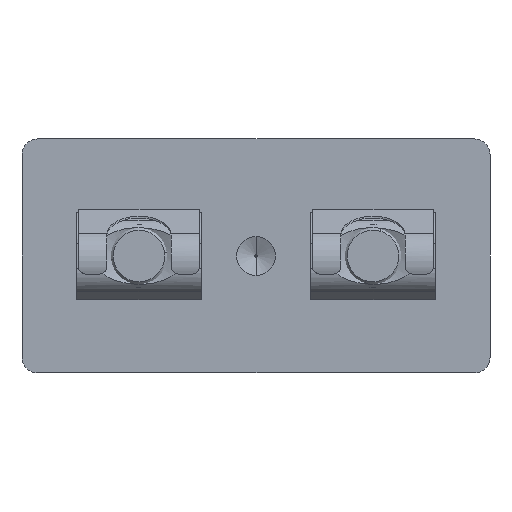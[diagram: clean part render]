
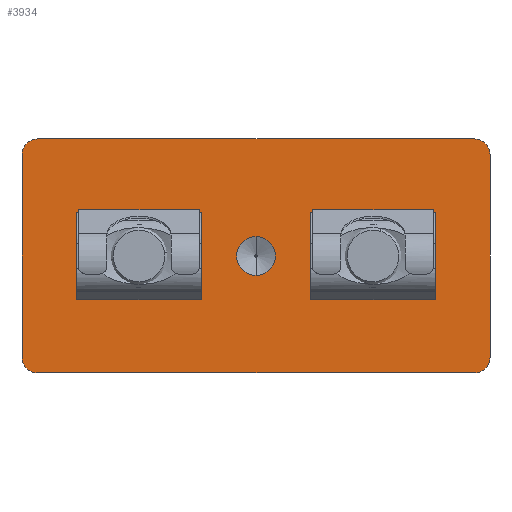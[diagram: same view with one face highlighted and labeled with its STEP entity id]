
A CAD part, front view. The second image highlights one B-rep face of the part: STEP entity #3934.
In plain terms, the highlighted planar face has unit normal (0, -1, 0).
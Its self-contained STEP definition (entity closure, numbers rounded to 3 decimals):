
#9 = CARTESIAN_POINT ( 'NONE',  ( -3.44, -3.897, 1.8 ) ) ;
#78 = AXIS2_PLACEMENT_3D ( 'NONE', #2356, #2885, #4289 ) ;
#205 = CARTESIAN_POINT ( 'NONE',  ( 26.56, -3.897, -13.7 ) ) ;
#255 = FACE_BOUND ( 'NONE', #4356, .T. ) ;
#289 = VERTEX_POINT ( 'NONE', #5952 ) ;
#293 = LINE ( 'NONE', #373, #3072 ) ;
#373 = CARTESIAN_POINT ( 'NONE',  ( 26.56, -3.897, -15.7 ) ) ;
#441 = CIRCLE ( 'NONE', #2847, 2. ) ;
#712 = EDGE_CURVE ( 'NONE', #3746, #1873, #441, .T. ) ;
#982 = VERTEX_POINT ( 'NONE', #6184 ) ;
#1050 = ORIENTED_EDGE ( 'NONE', *, *, #4214, .F. ) ;
#1072 = VECTOR ( 'NONE', #7654, 1000. ) ;
#1092 = DIRECTION ( 'NONE',  ( 0., -1., 0. ) ) ;
#1148 = EDGE_CURVE ( 'NONE', #5632, #8066, #2854, .T. ) ;
#1275 = DIRECTION ( 'NONE',  ( 0., 0., 1. ) ) ;
#1346 = CARTESIAN_POINT ( 'NONE',  ( -3.44, -3.897, -0.7 ) ) ;
#1487 = FACE_BOUND ( 'NONE', #5428, .T. ) ;
#1752 = CARTESIAN_POINT ( 'NONE',  ( -31.44, -3.897, 14.3 ) ) ;
#1873 = VERTEX_POINT ( 'NONE', #205 ) ;
#2006 = CIRCLE ( 'NONE', #6319, 2.5 ) ;
#2045 = EDGE_CURVE ( 'NONE', #3746, #3938, #293, .T. ) ;
#2071 = ORIENTED_EDGE ( 'NONE', *, *, #1148, .T. ) ;
#2168 = DIRECTION ( 'NONE',  ( 0., -1., 0. ) ) ;
#2194 = ORIENTED_EDGE ( 'NONE', *, *, #4968, .T. ) ;
#2247 = ORIENTED_EDGE ( 'NONE', *, *, #5903, .F. ) ;
#2356 = CARTESIAN_POINT ( 'NONE',  ( -3.44, -3.897, -0.7 ) ) ;
#2417 = EDGE_CURVE ( 'NONE', #982, #3938, #8469, .T. ) ;
#2422 = CARTESIAN_POINT ( 'NONE',  ( -3.44, -3.897, -0.7 ) ) ;
#2459 = ORIENTED_EDGE ( 'NONE', *, *, #2417, .T. ) ;
#2472 = CARTESIAN_POINT ( 'NONE',  ( 11.56, -3.897, 3.8 ) ) ;
#2491 = DIRECTION ( 'NONE',  ( -1., 0., 0. ) ) ;
#2523 = EDGE_CURVE ( 'NONE', #289, #7287, #4121, .T. ) ;
#2572 = CARTESIAN_POINT ( 'NONE',  ( -18.44, -3.897, 3.8 ) ) ;
#2606 = VECTOR ( 'NONE', #3172, 1000. ) ;
#2669 = DIRECTION ( 'NONE',  ( 0., 0., 1. ) ) ;
#2697 = CARTESIAN_POINT ( 'NONE',  ( 24.56, -3.897, 12.3 ) ) ;
#2739 = VERTEX_POINT ( 'NONE', #5440 ) ;
#2782 = DIRECTION ( 'NONE',  ( 0., 0., -1. ) ) ;
#2786 = AXIS2_PLACEMENT_3D ( 'NONE', #8397, #5663, #2669 ) ;
#2830 = CARTESIAN_POINT ( 'NONE',  ( -18.44, -3.897, -0.7 ) ) ;
#2847 = AXIS2_PLACEMENT_3D ( 'NONE', #6368, #4970, #4090 ) ;
#2854 = CIRCLE ( 'NONE', #7487, 4.5 ) ;
#2885 = DIRECTION ( 'NONE',  ( 0., -1., 0. ) ) ;
#2979 = CIRCLE ( 'NONE', #6406, 2. ) ;
#3007 = CARTESIAN_POINT ( 'NONE',  ( 11.56, -3.897, -0.7 ) ) ;
#3021 = PLANE ( 'NONE',  #4192 ) ;
#3072 = VECTOR ( 'NONE', #2491, 1000. ) ;
#3172 = DIRECTION ( 'NONE',  ( 1., 0., 0. ) ) ;
#3211 = EDGE_CURVE ( 'NONE', #8066, #5632, #6711, .T. ) ;
#3418 = EDGE_CURVE ( 'NONE', #5972, #3450, #2979, .T. ) ;
#3429 = CARTESIAN_POINT ( 'NONE',  ( -33.44, -3.897, -15.7 ) ) ;
#3450 = VERTEX_POINT ( 'NONE', #5659 ) ;
#3587 = DIRECTION ( 'NONE',  ( 0., 0., -1. ) ) ;
#3718 = FACE_BOUND ( 'NONE', #8476, .T. ) ;
#3746 = VERTEX_POINT ( 'NONE', #6866 ) ;
#3822 = ORIENTED_EDGE ( 'NONE', *, *, #3211, .T. ) ;
#3934 = ADVANCED_FACE ( 'NONE', ( #255, #3718, #1487, #5123 ), #3021, .F. ) ;
#3938 = VERTEX_POINT ( 'NONE', #6618 ) ;
#3967 = CARTESIAN_POINT ( 'NONE',  ( -33.44, -3.897, 14.3 ) ) ;
#3973 = CIRCLE ( 'NONE', #5163, 2. ) ;
#4082 = ORIENTED_EDGE ( 'NONE', *, *, #2523, .T. ) ;
#4090 = DIRECTION ( 'NONE',  ( 0., 0., 1. ) ) ;
#4119 = EDGE_CURVE ( 'NONE', #7287, #289, #5092, .T. ) ;
#4121 = CIRCLE ( 'NONE', #8924, 4.5 ) ;
#4176 = CARTESIAN_POINT ( 'NONE',  ( 11.56, -3.897, -0.7 ) ) ;
#4179 = DIRECTION ( 'NONE',  ( 0., 0., 1. ) ) ;
#4192 = AXIS2_PLACEMENT_3D ( 'NONE', #2422, #7996, #8849 ) ;
#4198 = DIRECTION ( 'NONE',  ( 0., -1., 0. ) ) ;
#4214 = EDGE_CURVE ( 'NONE', #982, #3450, #4229, .T. ) ;
#4229 = LINE ( 'NONE', #3429, #1072 ) ;
#4289 = DIRECTION ( 'NONE',  ( 0., 0., -1. ) ) ;
#4292 = EDGE_CURVE ( 'NONE', #2739, #1873, #7747, .T. ) ;
#4356 = EDGE_LOOP ( 'NONE', ( #2071, #3822 ) ) ;
#4524 = CARTESIAN_POINT ( 'NONE',  ( 24.56, -3.897, 14.3 ) ) ;
#4758 = ORIENTED_EDGE ( 'NONE', *, *, #2045, .F. ) ;
#4939 = ORIENTED_EDGE ( 'NONE', *, *, #5670, .F. ) ;
#4968 = EDGE_CURVE ( 'NONE', #2739, #7054, #3973, .T. ) ;
#4970 = DIRECTION ( 'NONE',  ( 0., -1., 0. ) ) ;
#5092 = CIRCLE ( 'NONE', #8409, 4.5 ) ;
#5123 = FACE_OUTER_BOUND ( 'NONE', #7522, .T. ) ;
#5163 = AXIS2_PLACEMENT_3D ( 'NONE', #2697, #2168, #1275 ) ;
#5268 = DIRECTION ( 'NONE',  ( 0., 0., 1. ) ) ;
#5428 = EDGE_LOOP ( 'NONE', ( #9043, #2247 ) ) ;
#5440 = CARTESIAN_POINT ( 'NONE',  ( 26.56, -3.897, 12.3 ) ) ;
#5588 = ORIENTED_EDGE ( 'NONE', *, *, #3418, .T. ) ;
#5632 = VERTEX_POINT ( 'NONE', #2472 ) ;
#5659 = CARTESIAN_POINT ( 'NONE',  ( -33.44, -3.897, 12.3 ) ) ;
#5663 = DIRECTION ( 'NONE',  ( 0., -1., 0. ) ) ;
#5670 = EDGE_CURVE ( 'NONE', #5972, #7054, #8192, .T. ) ;
#5709 = VERTEX_POINT ( 'NONE', #7438 ) ;
#5845 = EDGE_CURVE ( 'NONE', #5709, #7083, #2006, .T. ) ;
#5903 = EDGE_CURVE ( 'NONE', #7083, #5709, #8448, .T. ) ;
#5952 = CARTESIAN_POINT ( 'NONE',  ( -18.44, -3.897, -5.2 ) ) ;
#5972 = VERTEX_POINT ( 'NONE', #1752 ) ;
#5975 = CARTESIAN_POINT ( 'NONE',  ( -18.44, -3.897, -0.7 ) ) ;
#5981 = ORIENTED_EDGE ( 'NONE', *, *, #4292, .F. ) ;
#6116 = ORIENTED_EDGE ( 'NONE', *, *, #712, .T. ) ;
#6184 = CARTESIAN_POINT ( 'NONE',  ( -33.44, -3.897, -13.7 ) ) ;
#6313 = DIRECTION ( 'NONE',  ( 0., 0., 1. ) ) ;
#6319 = AXIS2_PLACEMENT_3D ( 'NONE', #1346, #4198, #3587 ) ;
#6368 = CARTESIAN_POINT ( 'NONE',  ( 24.56, -3.897, -13.7 ) ) ;
#6406 = AXIS2_PLACEMENT_3D ( 'NONE', #7411, #1092, #8212 ) ;
#6618 = CARTESIAN_POINT ( 'NONE',  ( -31.44, -3.897, -15.7 ) ) ;
#6711 = CIRCLE ( 'NONE', #8831, 4.5 ) ;
#6866 = CARTESIAN_POINT ( 'NONE',  ( 24.56, -3.897, -15.7 ) ) ;
#6901 = DIRECTION ( 'NONE',  ( 0., 1., 0. ) ) ;
#7054 = VERTEX_POINT ( 'NONE', #4524 ) ;
#7083 = VERTEX_POINT ( 'NONE', #9 ) ;
#7287 = VERTEX_POINT ( 'NONE', #2572 ) ;
#7311 = CARTESIAN_POINT ( 'NONE',  ( 11.56, -3.897, -5.2 ) ) ;
#7411 = CARTESIAN_POINT ( 'NONE',  ( -31.44, -3.897, 12.3 ) ) ;
#7438 = CARTESIAN_POINT ( 'NONE',  ( -3.44, -3.897, -3.2 ) ) ;
#7487 = AXIS2_PLACEMENT_3D ( 'NONE', #3007, #7939, #8030 ) ;
#7522 = EDGE_LOOP ( 'NONE', ( #4758, #6116, #5981, #2194, #4939, #5588, #1050, #2459 ) ) ;
#7654 = DIRECTION ( 'NONE',  ( 0., 0., 1. ) ) ;
#7747 = LINE ( 'NONE', #9192, #8707 ) ;
#7873 = ORIENTED_EDGE ( 'NONE', *, *, #4119, .T. ) ;
#7939 = DIRECTION ( 'NONE',  ( 0., 1., 0. ) ) ;
#7996 = DIRECTION ( 'NONE',  ( 0., 1., 0. ) ) ;
#8030 = DIRECTION ( 'NONE',  ( 0., 0., 1. ) ) ;
#8066 = VERTEX_POINT ( 'NONE', #7311 ) ;
#8192 = LINE ( 'NONE', #3967, #2606 ) ;
#8212 = DIRECTION ( 'NONE',  ( 0., 0., 1. ) ) ;
#8397 = CARTESIAN_POINT ( 'NONE',  ( -31.44, -3.897, -13.7 ) ) ;
#8409 = AXIS2_PLACEMENT_3D ( 'NONE', #2830, #8563, #4179 ) ;
#8448 = CIRCLE ( 'NONE', #78, 2.5 ) ;
#8469 = CIRCLE ( 'NONE', #2786, 2. ) ;
#8476 = EDGE_LOOP ( 'NONE', ( #7873, #4082 ) ) ;
#8563 = DIRECTION ( 'NONE',  ( 0., 1., 0. ) ) ;
#8707 = VECTOR ( 'NONE', #2782, 1000. ) ;
#8831 = AXIS2_PLACEMENT_3D ( 'NONE', #4176, #6901, #6313 ) ;
#8849 = DIRECTION ( 'NONE',  ( 0., 0., 1. ) ) ;
#8851 = DIRECTION ( 'NONE',  ( 0., 1., 0. ) ) ;
#8924 = AXIS2_PLACEMENT_3D ( 'NONE', #5975, #8851, #5268 ) ;
#9043 = ORIENTED_EDGE ( 'NONE', *, *, #5845, .F. ) ;
#9192 = CARTESIAN_POINT ( 'NONE',  ( 26.56, -3.897, 14.3 ) ) ;
